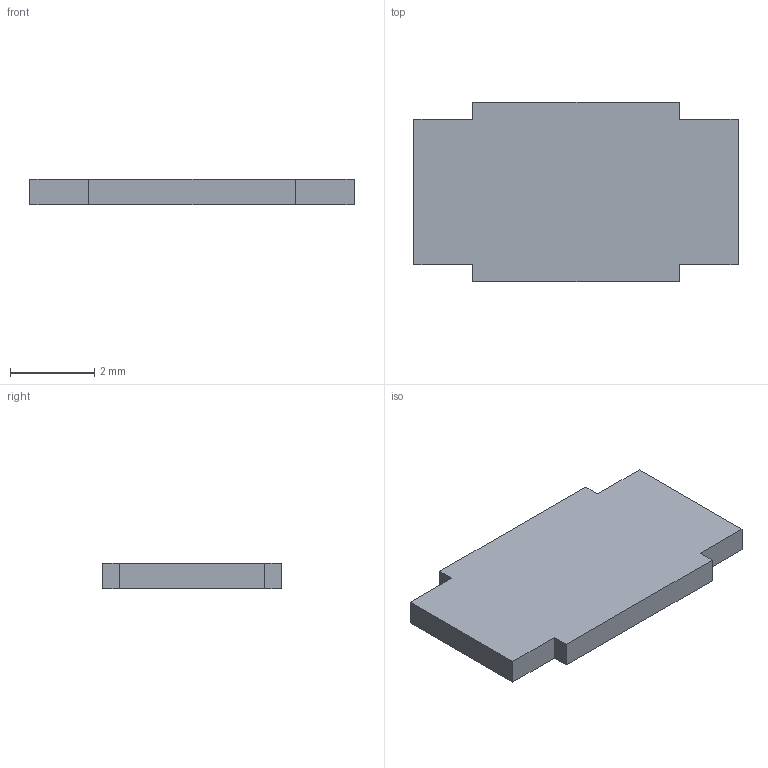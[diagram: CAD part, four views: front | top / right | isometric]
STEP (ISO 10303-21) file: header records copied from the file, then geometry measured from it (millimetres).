
FILE_DESCRIPTION(/* description */ ('STEP AP242 Edition 2','CAx-IF Rec.Pracs.---Representation and Presentation of Product Manufacturing Information (PMI)---4.0---2014-10-13','CAx-IF Rec.Pracs.---3D Tessellated Geometry---0.4---2014-09-14','2;1','CAx-IF Rec.Pracs.---User Defined Attributes---1.5---2016-08-15'),/* implementation_level */ '2;1');
FILE_NAME(/* name */ 'Part Studio 1 - Surface 6',/* time_stamp */ '2026-11-25T23:28:53Z',/* author */ (''),/* organization */ (''),/* preprocessor_version */ 'ST-DEVELOPER v20',/* originating_system */ 'ONSHAPE BY PTC INC, 1.224',/* authorisation */ ' ');
FILE_SCHEMA (('AP242_MANAGED_MODEL_BASED_3D_ENGINEERING_MIM_LF { 1 0 10303 442 3 1 4 }'));
Length unit declared in the file: metre
Products named in the file (1): SW_Slide_SPDT_Straight_CK_OS102011MS2Q
Bounding box: 7.7 x 4.25 x 0.6 mm (x, y, z)
Volume: 18.3 mm3; surface area: 75.3 mm2
Topology: 1 solids, 1 shells, 14 faces, 36 edges, 24 vertices
Faces by surface type: plane 14
Entity records: 433 total; most frequent: CARTESIAN_POINT 75, ORIENTED_EDGE 72, DIRECTION 66, EDGE_CURVE 36, LINE 36, VECTOR 36, VERTEX_POINT 24, AXIS2_PLACEMENT_3D 15
